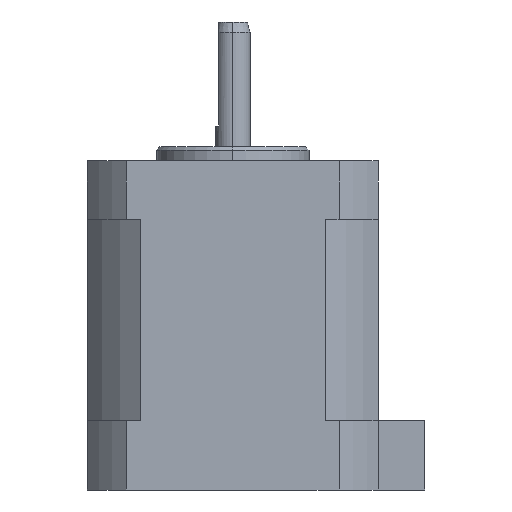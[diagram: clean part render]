
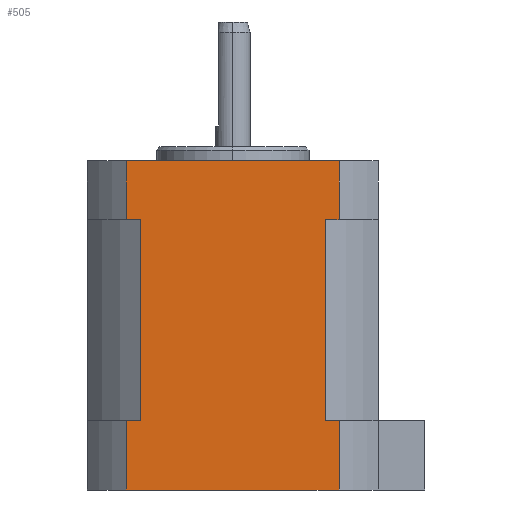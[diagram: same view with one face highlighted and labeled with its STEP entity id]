
A CAD part, left-side view. The second image highlights one B-rep face of the part: STEP entity #505.
In plain terms, the highlighted planar face has unit normal (-1, 0, 0).
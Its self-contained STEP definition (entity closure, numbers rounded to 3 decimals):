
#27 = CARTESIAN_POINT ( 'NONE',  ( -21., 13.379, -39.5 ) ) ;
#32 = CARTESIAN_POINT ( 'NONE',  ( -21., -15.33, -49.5 ) ) ;
#38 = VERTEX_POINT ( 'NONE', #1636 ) ;
#63 = ORIENTED_EDGE ( 'NONE', *, *, #1337, .F. ) ;
#66 = CARTESIAN_POINT ( 'NONE',  ( -21., -13.379, -39.5 ) ) ;
#93 = CARTESIAN_POINT ( 'NONE',  ( -21., 21., -10.5 ) ) ;
#98 = CARTESIAN_POINT ( 'NONE',  ( -21., 15.33, -2. ) ) ;
#120 = EDGE_CURVE ( 'NONE', #808, #435, #1640, .T. ) ;
#138 = CARTESIAN_POINT ( 'NONE',  ( -21., 21., -2. ) ) ;
#218 = LINE ( 'NONE', #32, #624 ) ;
#236 = EDGE_LOOP ( 'NONE', ( #1723, #390, #951, #700, #63, #1559, #1398, #953, #276, #332, #1547, #523 ) ) ;
#253 = DIRECTION ( 'NONE',  ( 0., 0., 1. ) ) ;
#276 = ORIENTED_EDGE ( 'NONE', *, *, #775, .T. ) ;
#294 = LINE ( 'NONE', #93, #1516 ) ;
#307 = DIRECTION ( 'NONE',  ( 0., 1., 0. ) ) ;
#309 = VERTEX_POINT ( 'NONE', #66 ) ;
#332 = ORIENTED_EDGE ( 'NONE', *, *, #757, .F. ) ;
#344 = LINE ( 'NONE', #138, #411 ) ;
#390 = ORIENTED_EDGE ( 'NONE', *, *, #1229, .F. ) ;
#411 = VECTOR ( 'NONE', #1791, 1000. ) ;
#435 = VERTEX_POINT ( 'NONE', #1018 ) ;
#443 = CARTESIAN_POINT ( 'NONE',  ( -21., -13.379, -10.5 ) ) ;
#471 = CARTESIAN_POINT ( 'NONE',  ( -21., 15.33, -49.5 ) ) ;
#479 = EDGE_CURVE ( 'NONE', #1814, #1323, #1170, .T. ) ;
#505 = ADVANCED_FACE ( 'NONE', ( #1322 ), #702, .F. ) ;
#522 = CARTESIAN_POINT ( 'NONE',  ( -21., 13.379, -39.5 ) ) ;
#523 = ORIENTED_EDGE ( 'NONE', *, *, #1639, .T. ) ;
#540 = VECTOR ( 'NONE', #561, 1000. ) ;
#561 = DIRECTION ( 'NONE',  ( 0., 1., 0. ) ) ;
#624 = VECTOR ( 'NONE', #1694, 1000. ) ;
#678 = LINE ( 'NONE', #471, #1789 ) ;
#700 = ORIENTED_EDGE ( 'NONE', *, *, #1329, .T. ) ;
#702 = PLANE ( 'NONE',  #1431 ) ;
#721 = LINE ( 'NONE', #522, #1225 ) ;
#757 = EDGE_CURVE ( 'NONE', #38, #1507, #294, .T. ) ;
#767 = VERTEX_POINT ( 'NONE', #1196 ) ;
#771 = CARTESIAN_POINT ( 'NONE',  ( -21., 21., -10.5 ) ) ;
#775 = EDGE_CURVE ( 'NONE', #309, #1507, #1195, .T. ) ;
#791 = EDGE_CURVE ( 'NONE', #1292, #309, #721, .T. ) ;
#804 = VECTOR ( 'NONE', #1056, 1000. ) ;
#805 = DIRECTION ( 'NONE',  ( 0., 0., 1. ) ) ;
#808 = VERTEX_POINT ( 'NONE', #27 ) ;
#825 = DIRECTION ( 'NONE',  ( 0., 0., 1. ) ) ;
#886 = EDGE_CURVE ( 'NONE', #1251, #1292, #1566, .T. ) ;
#905 = CARTESIAN_POINT ( 'NONE',  ( -21., -15.33, -39.5 ) ) ;
#906 = VECTOR ( 'NONE', #1279, 1000. ) ;
#951 = ORIENTED_EDGE ( 'NONE', *, *, #120, .F. ) ;
#953 = ORIENTED_EDGE ( 'NONE', *, *, #791, .T. ) ;
#955 = EDGE_CURVE ( 'NONE', #767, #38, #1707, .T. ) ;
#980 = CARTESIAN_POINT ( 'NONE',  ( -21., 15.33, -36. ) ) ;
#1003 = CARTESIAN_POINT ( 'NONE',  ( -21., -13.379, -39.5 ) ) ;
#1015 = EDGE_CURVE ( 'NONE', #1251, #1529, #218, .T. ) ;
#1018 = CARTESIAN_POINT ( 'NONE',  ( -21., 13.379, -10.5 ) ) ;
#1056 = DIRECTION ( 'NONE',  ( 0., 1., 0. ) ) ;
#1146 = LINE ( 'NONE', #771, #540 ) ;
#1170 = LINE ( 'NONE', #980, #1779 ) ;
#1180 = DIRECTION ( 'NONE',  ( 0., 0., -1. ) ) ;
#1190 = CARTESIAN_POINT ( 'NONE',  ( -21., 15.33, -10.5 ) ) ;
#1195 = LINE ( 'NONE', #1003, #1343 ) ;
#1196 = CARTESIAN_POINT ( 'NONE',  ( -21., -15.33, -2. ) ) ;
#1212 = DIRECTION ( 'NONE',  ( 0., 0., 1. ) ) ;
#1220 = CARTESIAN_POINT ( 'NONE',  ( -21., 15.33, -39.5 ) ) ;
#1225 = VECTOR ( 'NONE', #307, 1000. ) ;
#1229 = EDGE_CURVE ( 'NONE', #435, #1814, #1146, .T. ) ;
#1242 = CARTESIAN_POINT ( 'NONE',  ( -21., 13.379, -39.5 ) ) ;
#1251 = VERTEX_POINT ( 'NONE', #1456 ) ;
#1279 = DIRECTION ( 'NONE',  ( 0., 0., 1. ) ) ;
#1292 = VERTEX_POINT ( 'NONE', #905 ) ;
#1322 = FACE_OUTER_BOUND ( 'NONE', #236, .T. ) ;
#1323 = VERTEX_POINT ( 'NONE', #98 ) ;
#1329 = EDGE_CURVE ( 'NONE', #808, #1503, #1414, .T. ) ;
#1337 = EDGE_CURVE ( 'NONE', #1529, #1503, #678, .T. ) ;
#1343 = VECTOR ( 'NONE', #825, 1000. ) ;
#1355 = CARTESIAN_POINT ( 'NONE',  ( -21., -15.33, -36. ) ) ;
#1383 = CARTESIAN_POINT ( 'NONE',  ( -21., -15.33, -49.5 ) ) ;
#1398 = ORIENTED_EDGE ( 'NONE', *, *, #886, .T. ) ;
#1403 = DIRECTION ( 'NONE',  ( 0., 1., 0. ) ) ;
#1414 = LINE ( 'NONE', #1242, #804 ) ;
#1431 = AXIS2_PLACEMENT_3D ( 'NONE', #1752, #1585, #1403 ) ;
#1456 = CARTESIAN_POINT ( 'NONE',  ( -21., -15.33, -49.5 ) ) ;
#1457 = CARTESIAN_POINT ( 'NONE',  ( -21., 13.379, -39.5 ) ) ;
#1503 = VERTEX_POINT ( 'NONE', #1220 ) ;
#1507 = VERTEX_POINT ( 'NONE', #443 ) ;
#1516 = VECTOR ( 'NONE', #1758, 1000. ) ;
#1529 = VERTEX_POINT ( 'NONE', #1530 ) ;
#1530 = CARTESIAN_POINT ( 'NONE',  ( -21., 15.33, -49.5 ) ) ;
#1545 = VECTOR ( 'NONE', #1212, 1000. ) ;
#1547 = ORIENTED_EDGE ( 'NONE', *, *, #955, .F. ) ;
#1559 = ORIENTED_EDGE ( 'NONE', *, *, #1015, .F. ) ;
#1566 = LINE ( 'NONE', #1383, #1545 ) ;
#1585 = DIRECTION ( 'NONE',  ( 1., 0., 0. ) ) ;
#1636 = CARTESIAN_POINT ( 'NONE',  ( -21., -15.33, -10.5 ) ) ;
#1639 = EDGE_CURVE ( 'NONE', #767, #1323, #344, .T. ) ;
#1640 = LINE ( 'NONE', #1457, #906 ) ;
#1681 = VECTOR ( 'NONE', #1180, 1000. ) ;
#1694 = DIRECTION ( 'NONE',  ( 0., 1., 0. ) ) ;
#1707 = LINE ( 'NONE', #1355, #1681 ) ;
#1723 = ORIENTED_EDGE ( 'NONE', *, *, #479, .F. ) ;
#1752 = CARTESIAN_POINT ( 'NONE',  ( -21., 21., -10.5 ) ) ;
#1758 = DIRECTION ( 'NONE',  ( 0., 1., 0. ) ) ;
#1779 = VECTOR ( 'NONE', #805, 1000. ) ;
#1789 = VECTOR ( 'NONE', #253, 1000. ) ;
#1791 = DIRECTION ( 'NONE',  ( 0., 1., 0. ) ) ;
#1814 = VERTEX_POINT ( 'NONE', #1190 ) ;
